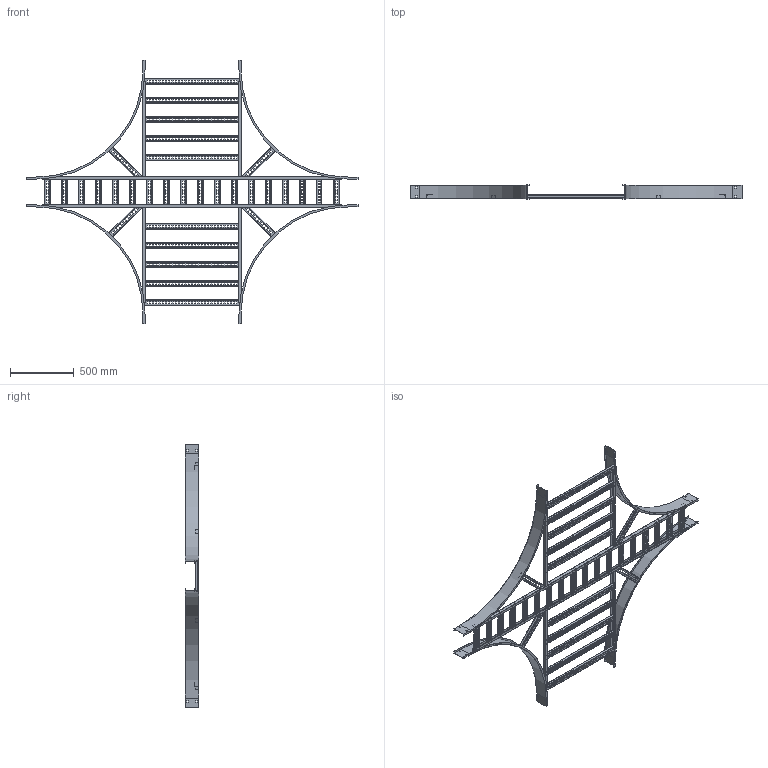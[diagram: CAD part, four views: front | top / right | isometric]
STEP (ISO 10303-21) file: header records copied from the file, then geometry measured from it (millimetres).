
FILE_DESCRIPTION((''),'2;1');
FILE_NAME('AUF40930VEX36_ASM','2010-02-03T',('erouzier'),(''),'PRO/ENGINEER BY PARAMETRIC TECHNOLOGY CORPORATION, 2008510','PRO/ENGINEER BY PARAMETRIC TECHNOLOGY CORPORATION, 2008510','');
FILE_SCHEMA(('CONFIG_CONTROL_DESIGN'));
Length unit declared in the file: inch
Products named in the file (29): CDS001319-4-90-33-I; CDS002159L9-P_AF15; CDS002159L9-P_AF16; CDS002159L9-P_AF17; CDS002159L9-P_AF18; CDS002159L9-P_AF24; CDS002159L9-P_AF26; CDS002159L9-P_AF28; CDS002159L9-P; CDS002159L9-P_AF19; CDS002159L9-P_AF20; CDS002159L9-P_AF21; CDS002159L9-P_AF23; CDS002159L9-P_AF25; CDS002159L9-P_AF27; CDS002159L9-P_AF29; CDS002159L9-P_AF22; CDS000495_GEN_AF18; CDS000495_GEN_AF19; CDS000495_GEN_AF22; CDS000495_GEN_AF23; CDS000495_GEN_AF20; CDS000495_GEN_AF21; CDS002159L18-P_AF6; CDS002159L18-P_AF7; CDS002159L18-P_AF4; CDS002159L18-P_AF5; CDS002159L30-P; AUF40930VEX36_ASM
Assembly tree (42 placements, depth 2):
  AUF40930VEX36_ASM
    CDS001319-4-90-33-I  x4
    CDS002159L9-P_AF15
    CDS002159L9-P_AF16
    CDS002159L9-P_AF17
    CDS002159L9-P_AF18
    CDS002159L9-P_AF24
    CDS002159L9-P_AF26
    CDS002159L9-P_AF28
    CDS002159L9-P  x3
    CDS002159L9-P_AF19
    CDS002159L9-P_AF20
    CDS002159L9-P_AF21
    CDS002159L9-P_AF23
    CDS002159L9-P_AF25
    CDS002159L9-P_AF27
    CDS002159L9-P_AF29
    CDS002159L9-P_AF22
    CDS000495_GEN_AF18
    CDS000495_GEN_AF19
    CDS000495_GEN_AF22
    CDS000495_GEN_AF23
    CDS000495_GEN_AF20
    CDS000495_GEN_AF21
    CDS002159L18-P_AF6
    CDS002159L18-P_AF7
    CDS002159L18-P_AF4
    CDS002159L18-P_AF5
    CDS002159L30-P  x10
Bounding box: 2595.37 x 106.05 x 2061.97 mm (x, y, z)
Volume: 4746559.5 mm3; surface area: 5541163.2 mm2
Topology: 42 solids, 42 shells, 4788 faces, 14112 edges, 9408 vertices
Faces by surface type: plane 2608, cylinder 2180
Entity records: 75961 total; most frequent: CARTESIAN_POINT 13503, ORIENTED_EDGE 13032, DIRECTION 12992, EDGE_CURVE 6516, VECTOR 4550, LINE 4550, VERTEX_POINT 4344, AXIS2_PLACEMENT_3D 4221
